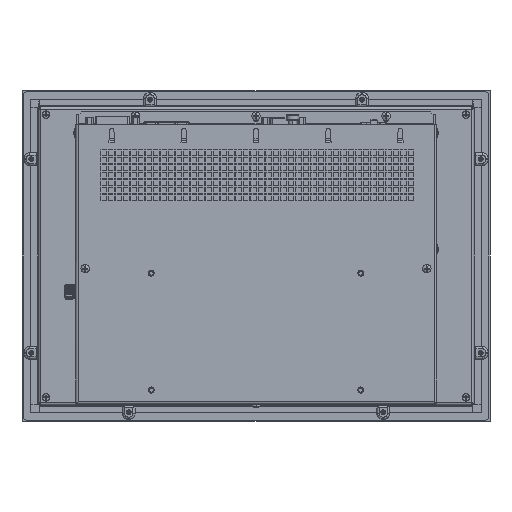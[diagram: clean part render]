
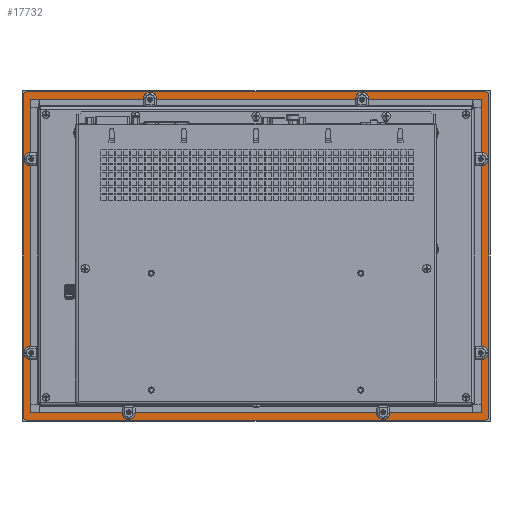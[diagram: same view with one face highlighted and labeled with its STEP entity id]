
A CAD part, front view. The second image highlights one B-rep face of the part: STEP entity #17732.
In plain terms, the highlighted planar face has unit normal (0, -1, 0).
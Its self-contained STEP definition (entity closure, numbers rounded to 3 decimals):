
#16584=CARTESIAN_POINT('',(162.5,0.5,-114.));
#16585=DIRECTION('',(0.,1.,0.));
#16586=DIRECTION('',(1.,0.,0.));
#16587=AXIS2_PLACEMENT_3D('',#16584,#16585,#16586);
#16589=DIRECTION('',(-1.,0.,0.));
#16590=VECTOR('',#16589,325.);
#16591=CARTESIAN_POINT('',(162.5,0.5,-116.));
#16592=LINE('',#16591,#16590);
#16593=CARTESIAN_POINT('',(-162.5,0.5,-114.));
#16594=DIRECTION('',(0.,1.,0.));
#16595=DIRECTION('',(0.,0.,-1.));
#16596=AXIS2_PLACEMENT_3D('',#16593,#16594,#16595);
#16598=DIRECTION('',(0.,0.,1.));
#16599=VECTOR('',#16598,228.);
#16600=CARTESIAN_POINT('',(-164.5,0.5,-114.));
#16601=LINE('',#16600,#16599);
#16602=CARTESIAN_POINT('',(-162.5,0.5,114.));
#16603=DIRECTION('',(0.,1.,0.));
#16604=DIRECTION('',(-1.,0.,0.));
#16605=AXIS2_PLACEMENT_3D('',#16602,#16603,#16604);
#16607=DIRECTION('',(1.,0.,0.));
#16608=VECTOR('',#16607,325.);
#16609=CARTESIAN_POINT('',(-162.5,0.5,116.));
#16610=LINE('',#16609,#16608);
#16611=CARTESIAN_POINT('',(162.5,0.5,114.));
#16612=DIRECTION('',(0.,1.,0.));
#16613=DIRECTION('',(0.,0.,1.));
#16614=AXIS2_PLACEMENT_3D('',#16611,#16612,#16613);
#16616=DIRECTION('',(0.,0.,-1.));
#16617=VECTOR('',#16616,228.);
#16618=CARTESIAN_POINT('',(164.5,0.5,114.));
#16619=LINE('',#16618,#16617);
#16620=CARTESIAN_POINT('',(158.5,0.5,-110.));
#16621=DIRECTION('',(0.,-1.,0.));
#16622=DIRECTION('',(0.,0.,-1.));
#16623=AXIS2_PLACEMENT_3D('',#16620,#16621,#16622);
#16625=CARTESIAN_POINT('',(158.5,0.5,110.));
#16626=DIRECTION('',(0.,-1.,0.));
#16627=DIRECTION('',(1.,0.,0.));
#16628=AXIS2_PLACEMENT_3D('',#16625,#16626,#16627);
#16630=CARTESIAN_POINT('',(-158.5,0.5,110.));
#16631=DIRECTION('',(0.,-1.,0.));
#16632=DIRECTION('',(0.,0.,1.));
#16633=AXIS2_PLACEMENT_3D('',#16630,#16631,#16632);
#16635=CARTESIAN_POINT('',(-158.5,0.5,-110.));
#16636=DIRECTION('',(0.,-1.,0.));
#16637=DIRECTION('',(-1.,0.,0.));
#16638=AXIS2_PLACEMENT_3D('',#16635,#16636,#16637);
#16640=DIRECTION('',(-1.,0.,0.));
#16641=VECTOR('',#16640,317.);
#16642=CARTESIAN_POINT('',(158.5,0.5,-111.));
#16643=LINE('',#16642,#16641);
#16652=DIRECTION('',(0.,0.,1.));
#16653=VECTOR('',#16652,220.);
#16654=CARTESIAN_POINT('',(-159.5,0.5,-110.));
#16655=LINE('',#16654,#16653);
#16664=DIRECTION('',(1.,0.,0.));
#16665=VECTOR('',#16664,317.);
#16666=CARTESIAN_POINT('',(-158.5,0.5,111.));
#16667=LINE('',#16666,#16665);
#16676=DIRECTION('',(0.,0.,-1.));
#16677=VECTOR('',#16676,220.);
#16678=CARTESIAN_POINT('',(159.5,0.5,110.));
#16679=LINE('',#16678,#16677);
#17219=CARTESIAN_POINT('',(164.5,0.5,-114.));
#17220=CARTESIAN_POINT('',(162.5,0.5,-116.));
#17221=VERTEX_POINT('',#17219);
#17222=VERTEX_POINT('',#17220);
#17223=CARTESIAN_POINT('',(-162.5,0.5,-116.));
#17224=VERTEX_POINT('',#17223);
#17225=CARTESIAN_POINT('',(-164.5,0.5,-114.));
#17226=VERTEX_POINT('',#17225);
#17227=CARTESIAN_POINT('',(-164.5,0.5,114.));
#17228=VERTEX_POINT('',#17227);
#17229=CARTESIAN_POINT('',(-162.5,0.5,116.));
#17230=VERTEX_POINT('',#17229);
#17231=CARTESIAN_POINT('',(162.5,0.5,116.));
#17232=VERTEX_POINT('',#17231);
#17233=CARTESIAN_POINT('',(164.5,0.5,114.));
#17234=VERTEX_POINT('',#17233);
#17235=CARTESIAN_POINT('',(158.5,0.5,-111.));
#17236=CARTESIAN_POINT('',(159.5,0.5,-110.));
#17237=VERTEX_POINT('',#17235);
#17238=VERTEX_POINT('',#17236);
#17239=CARTESIAN_POINT('',(159.5,0.5,110.));
#17240=VERTEX_POINT('',#17239);
#17241=CARTESIAN_POINT('',(158.5,0.5,111.));
#17242=VERTEX_POINT('',#17241);
#17243=CARTESIAN_POINT('',(-158.5,0.5,111.));
#17244=VERTEX_POINT('',#17243);
#17245=CARTESIAN_POINT('',(-159.5,0.5,110.));
#17246=VERTEX_POINT('',#17245);
#17247=CARTESIAN_POINT('',(-159.5,0.5,-110.));
#17248=VERTEX_POINT('',#17247);
#17249=CARTESIAN_POINT('',(-158.5,0.5,-111.));
#17250=VERTEX_POINT('',#17249);
#17691=CARTESIAN_POINT('',(0.,0.5,0.));
#17692=DIRECTION('',(0.,-1.,0.));
#17693=DIRECTION('',(-1.,0.,0.));
#17694=AXIS2_PLACEMENT_3D('',#17691,#17692,#17693);
#17695=PLANE('',#17694);
#17697=ORIENTED_EDGE('',*,*,#17696,.T.);
#17699=ORIENTED_EDGE('',*,*,#17698,.T.);
#17701=ORIENTED_EDGE('',*,*,#17700,.T.);
#17703=ORIENTED_EDGE('',*,*,#17702,.T.);
#17705=ORIENTED_EDGE('',*,*,#17704,.T.);
#17707=ORIENTED_EDGE('',*,*,#17706,.T.);
#17709=ORIENTED_EDGE('',*,*,#17708,.T.);
#17711=ORIENTED_EDGE('',*,*,#17710,.T.);
#17712=EDGE_LOOP('',(#17697,#17699,#17701,#17703,#17705,#17707,#17709,#17711));
#17713=FACE_OUTER_BOUND('',#17712,.F.);
#17715=ORIENTED_EDGE('',*,*,#17714,.T.);
#17717=ORIENTED_EDGE('',*,*,#17716,.F.);
#17719=ORIENTED_EDGE('',*,*,#17718,.T.);
#17721=ORIENTED_EDGE('',*,*,#17720,.F.);
#17723=ORIENTED_EDGE('',*,*,#17722,.T.);
#17725=ORIENTED_EDGE('',*,*,#17724,.F.);
#17727=ORIENTED_EDGE('',*,*,#17726,.T.);
#17729=ORIENTED_EDGE('',*,*,#17728,.F.);
#17730=EDGE_LOOP('',(#17715,#17717,#17719,#17721,#17723,#17725,#17727,#17729));
#17731=FACE_BOUND('',#17730,.F.);
#16588=CIRCLE('',#16587,2.);
#16597=CIRCLE('',#16596,2.);
#16606=CIRCLE('',#16605,2.);
#16615=CIRCLE('',#16614,2.);
#16624=CIRCLE('',#16623,1.);
#16629=CIRCLE('',#16628,1.);
#16634=CIRCLE('',#16633,1.);
#16639=CIRCLE('',#16638,1.);
#17696=EDGE_CURVE('',#17221,#17222,#16588,.T.);
#17698=EDGE_CURVE('',#17222,#17224,#16592,.T.);
#17700=EDGE_CURVE('',#17224,#17226,#16597,.T.);
#17702=EDGE_CURVE('',#17226,#17228,#16601,.T.);
#17704=EDGE_CURVE('',#17228,#17230,#16606,.T.);
#17706=EDGE_CURVE('',#17230,#17232,#16610,.T.);
#17708=EDGE_CURVE('',#17232,#17234,#16615,.T.);
#17710=EDGE_CURVE('',#17234,#17221,#16619,.T.);
#17714=EDGE_CURVE('',#17237,#17238,#16624,.T.);
#17716=EDGE_CURVE('',#17240,#17238,#16679,.T.);
#17718=EDGE_CURVE('',#17240,#17242,#16629,.T.);
#17720=EDGE_CURVE('',#17244,#17242,#16667,.T.);
#17722=EDGE_CURVE('',#17244,#17246,#16634,.T.);
#17724=EDGE_CURVE('',#17248,#17246,#16655,.T.);
#17726=EDGE_CURVE('',#17248,#17250,#16639,.T.);
#17728=EDGE_CURVE('',#17237,#17250,#16643,.T.);
#17732=ADVANCED_FACE('',(#17713,#17731),#17695,.T.);
